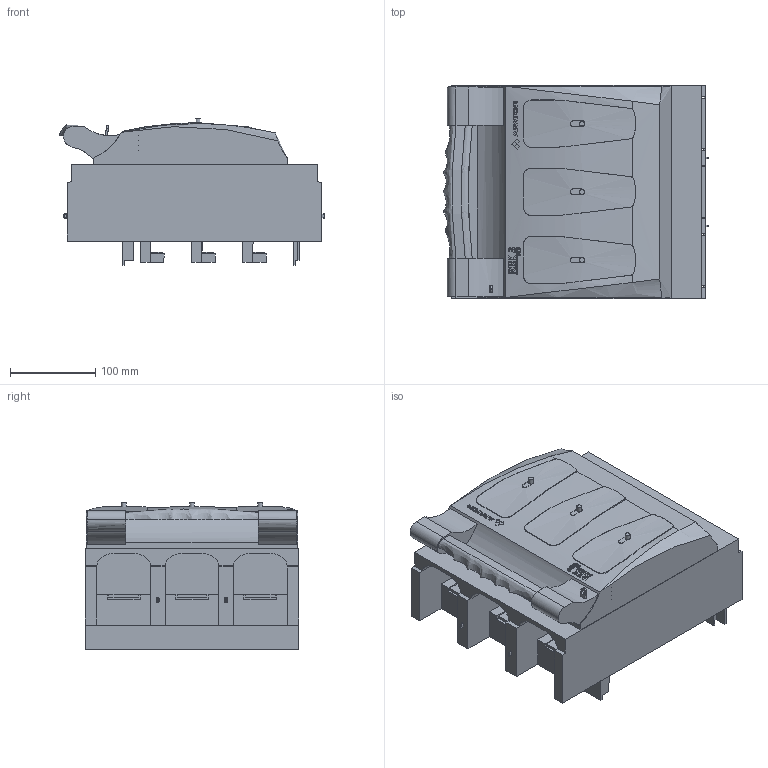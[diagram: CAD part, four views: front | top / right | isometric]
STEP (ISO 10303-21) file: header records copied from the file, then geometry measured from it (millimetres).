
FILE_DESCRIPTION(/* description */ (''),/* implementation_level */ '2;1');
FILE_NAME(/* name */ 'RBK 3 pro-SG-M - 63-028802-004.stp',/* time_stamp */ '2019-03-15T08:50:58+01:00',/* author */ (''),/* organization */ (''),/* preprocessor_version */ 'ST-DEVELOPER v16',/* originating_system */ 'SIEMENS PLM Software NX 10.0',/* authorisation */ '');
FILE_SCHEMA (('AUTOMOTIVE_DESIGN { 1 0 10303 214 3 1 1 1 }'));
Products named in the file (1): 710_2014EB00ebii
Bounding box: 311.67 x 250 x 172.2 mm (x, y, z)
Volume: 7594036.6 mm3; surface area: 455403.5 mm2
Topology: 1 solids, 5 shells, 1253 faces, 3551 edges, 2337 vertices
Faces by surface type: extrusion 653, plane 354, cylinder 145, bspline 47, sphere 20, cone 18, torus 16
Full cylindrical faces by diameter (mm): 11.105 x4, 13 x3
Entity records: 51343 total; most frequent: CARTESIAN_POINT 18151, ORIENTED_EDGE 7052, DIRECTION 6024, EDGE_CURVE 3526, VECTOR 3094, LINE 2441, VERTEX_POINT 2343, AXIS2_PLACEMENT_3D 1465
